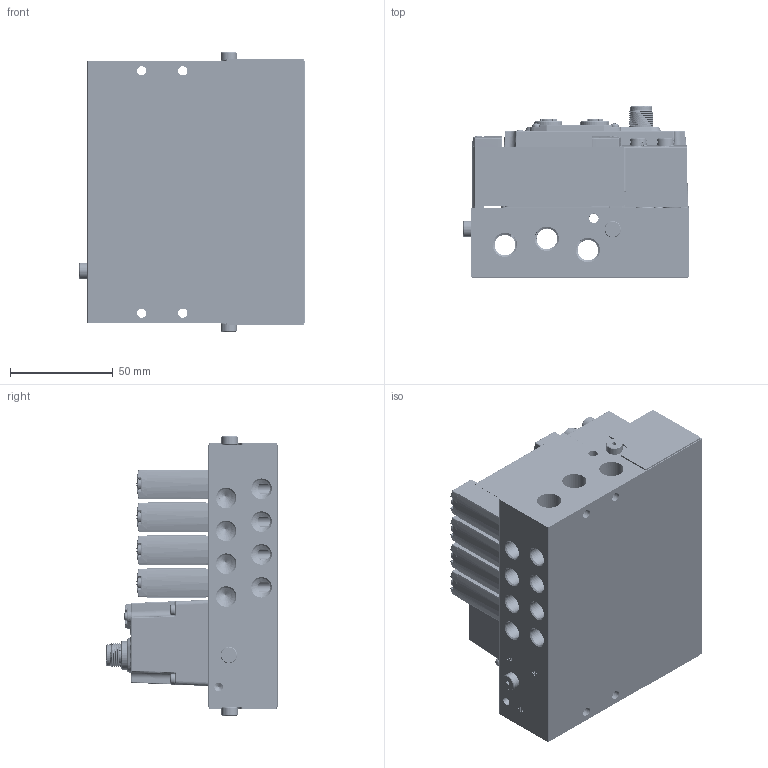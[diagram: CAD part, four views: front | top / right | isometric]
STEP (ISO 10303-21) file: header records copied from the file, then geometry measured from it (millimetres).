
FILE_DESCRIPTION((''),'2;1');
FILE_NAME('C3-L14-W-XBF-04_ASM','2026-06-22T13:37:48',('admin'),(''),'CREO PARAMETRIC BY PTC INC, 2022073','CREO PARAMETRIC BY PTC INC, 2022073','');
FILE_SCHEMA(('CONFIG_CONTROL_DESIGN'));
Products named in the file (49): NONE-14360; NONE-17617; 202300320_ASM-1_202300351-1-SOL; 202300320_ASM-1_202300144-1-SOL; 202300320_ASM-1_202300314_ASM-1; NONE-46503; PRT0002-1-SOLID4; PRT0002-1-SOLID2; PRT0002-1-SOLID1; 202300320_ASM-1_202300355-2-SOL; 202300320_ASM-1_202300353-1-SOL; 202300320_ASM-1_202300355-1-SOL; 202300320_ASM-1_202300349-1-SOL; 202300320_ASM-1_202300349-2-SOL; 202300320_ASM-1_202300351-2-SOL; 202300320_ASM-1_202300353-2-SOL; 202300320_ASM-1_202300318_ASM-1; 202300320_ASM-1_202300327-1-SOL; SURFACE-VGB14_ASM; XBF_0001_ASM; C3-L14-W-XBF-04-98897; 0001; M50001; C3-L14-W-XBF-04-159190_ASM; SURFACE-VGB14_ASM_1_ASM_1_ASM_1; M3X16-2-SOLID10001_1_1_1; M3X16-4-SOLID10001_1_1_1; SH794-1-1-SOLID1_1_1_1_1; SH794-1-1-SOLID1_1_2_1_1; SH794-1-1-SOLID1_1_3_1_1; SH794-1-1-SOLID1_1_ASM_1_ASM_1_ASM; M3X5-1-SOLID10001_1_1_1; M3X16-3-SOLID10001_1_1_1; M12D-2022_11_-70380001_1_1_1; M12D-2022_11_-82260001_1_1_1; M3X16-1-SOLID10001_1_1_1; NONE-196029_1_1_1; SH794-3-1-SOLID1_1_1_1; NONE-215390_1_1_1; M12A5-1-SOLID10001_1_1_1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
Assembly tree (83 placements, depth 9):
  C3-L14-W-XBF-04_ASM
    C3-L14-W-XBF-04-159190_ASM
      SURFACE-VGB14_ASM  x4
        NONE-14360
        NONE-17617
        202300320_ASM-1_202300351-1-SOL
        202300320_ASM-1_202300144-1-SOL
        202300320_ASM-1_202300314_ASM-1
        NONE-46503
        PRT0002-1-SOLID4
        PRT0002-1-SOLID2
        PRT0002-1-SOLID1
        202300320_ASM-1_202300355-2-SOL
        202300320_ASM-1_202300353-1-SOL
        202300320_ASM-1_202300355-1-SOL
        202300320_ASM-1_202300349-1-SOL
        202300320_ASM-1_202300349-2-SOL
        202300320_ASM-1_202300351-2-SOL
        202300320_ASM-1_202300353-2-SOL
        202300320_ASM-1_202300318_ASM-1
        202300320_ASM-1_202300327-1-SOL
      XBF_0001_ASM
      C3-L14-W-XBF-04-98897
      0001  x2
      M50001  x3
    C3EC_ASM
      C3-L14-W-XBF-24_ASM_ASM_1_ASM
        C3-L14-W-XBF-24_ASM_ASM_1_ASM_1_ASM
          C3-L14-W-XBF-24_ASM_1_ASM_1_ASM_ASM
            C3-L14-W-XBF-24-210887_ASM_1_AS_ASM
              SURFACE-VGB14_ASM_1_ASM_1_ASM_1  x24
              XBF_0001_ASM_1_ASM_1_ASM_1_ASM
                M3X16-2-SOLID10001_1_1_1
                M3X16-4-SOLID10001_1_1_1
                SH794-1-1-SOLID1_1_ASM_1_ASM_1_ASM
                  SH794-1-1-SOLID1_1_1_1_1
                  SH794-1-1-SOLID1_1_2_1_1
                  SH794-1-1-SOLID1_1_3_1_1
                M3X5-1-SOLID10001_1_1_1  x2
                M3X16-3-SOLID10001_1_1_1
                M12D-2022_11_-70380001_1_1_1
                M12D-2022_11_-82260001_1_1_1
                M3X16-1-SOLID10001_1_1_1
                NONE-196029_1_1_1
                SH794-3-1-SOLID1_1_1_1
                NONE-215390_1_1_1
                M12A5-1-SOLID10001_1_1_1
            _06--1-SOLID30001_1_1_1  x6
            IP_COVER_1_1_1
Bounding box: 110 x 83.3 x 136 mm (x, y, z)
Volume: 520716.2 mm3; surface area: 200183.1 mm2
Topology: 100 solids, 130 shells, 8015 faces, 20664 edges, 12395 vertices
Faces by surface type: cylinder 2736, plane 2201, torus 853, cone 797, bspline 772, sphere 571, extrusion 85
Entity records: 156735 total; most frequent: CARTESIAN_POINT 59547, DIRECTION 20268, ORIENTED_EDGE 20192, EDGE_CURVE 10104, AXIS2_PLACEMENT_3D 7875, VERTEX_POINT 6495, VECTOR 4518, LINE 4433
